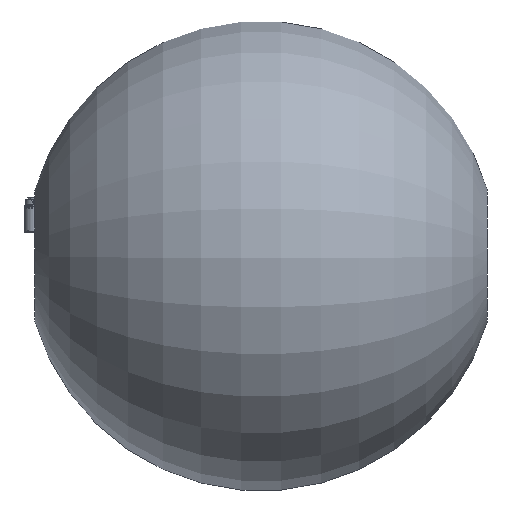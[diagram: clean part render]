
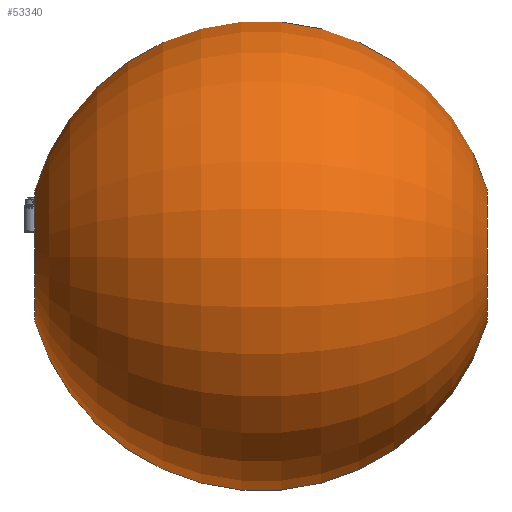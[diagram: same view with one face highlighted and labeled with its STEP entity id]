
A CAD part, left-side view. The second image highlights one B-rep face of the part: STEP entity #53340.
In plain terms, the highlighted toroidal (fillet/blend) face has major radius 1.75 mm and minor radius 1076 mm.
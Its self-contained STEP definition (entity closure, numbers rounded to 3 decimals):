
#2937 = DIRECTION ( 'NONE',  ( 0.087, 0., 0.996 ) ) ;
#3253 = CIRCLE ( 'NONE', #39454, 1076. ) ;
#5809 = DIRECTION ( 'NONE',  ( 0., 1., 0. ) ) ;
#8391 = ORIENTED_EDGE ( 'NONE', *, *, #17971, .F. ) ;
#10292 = VERTEX_POINT ( 'NONE', #73838 ) ;
#11040 = TOROIDAL_SURFACE ( 'NONE', #69168, 1.75, 1076. ) ;
#11145 = ORIENTED_EDGE ( 'NONE', *, *, #22257, .T. ) ;
#17239 = AXIS2_PLACEMENT_3D ( 'NONE', #84838, #5809, #52350 ) ;
#17971 = EDGE_CURVE ( 'NONE', #43916, #10292, #42668, .T. ) ;
#22257 = EDGE_CURVE ( 'NONE', #26969, #30683, #52752, .T. ) ;
#23640 = DIRECTION ( 'NONE',  ( 0., 0., 1. ) ) ;
#24982 = CARTESIAN_POINT ( 'NONE',  ( -26.234, -855.282, -299.855 ) ) ;
#26969 = VERTEX_POINT ( 'NONE', #24982 ) ;
#30683 = VERTEX_POINT ( 'NONE', #38639 ) ;
#35049 = DIRECTION ( 'NONE',  ( 0., 1., 0. ) ) ;
#35230 = DIRECTION ( 'NONE',  ( -0.996, 0., -0.087 ) ) ;
#35511 = CARTESIAN_POINT ( 'NONE',  ( 0.153, 178.268, -1.744 ) ) ;
#36061 = DIRECTION ( 'NONE',  ( -0.996, 0., 0.087 ) ) ;
#38184 = EDGE_CURVE ( 'NONE', #43916, #26969, #3253, .T. ) ;
#38639 = CARTESIAN_POINT ( 'NONE',  ( 26.234, -855.282, -299.855 ) ) ;
#38833 = AXIS2_PLACEMENT_3D ( 'NONE', #35511, #35230, #48654 ) ;
#39454 = AXIS2_PLACEMENT_3D ( 'NONE', #50361, #36061, #2937 ) ;
#42668 = CIRCLE ( 'NONE', #17239, 301. ) ;
#43709 = DIRECTION ( 'NONE',  ( 0., 1., 0. ) ) ;
#43916 = VERTEX_POINT ( 'NONE', #64114 ) ;
#48654 = DIRECTION ( 'NONE',  ( -0.087, 0., 0.996 ) ) ;
#50361 = CARTESIAN_POINT ( 'NONE',  ( -0.153, 178.268, -1.744 ) ) ;
#52350 = DIRECTION ( 'NONE',  ( 0., 0., 1. ) ) ;
#52752 = CIRCLE ( 'NONE', #71968, 301. ) ;
#53340 = ADVANCED_FACE ( 'NONE', ( #64246 ), #11040, .T. ) ;
#55666 = EDGE_LOOP ( 'NONE', ( #11145, #56938, #8391, #81717 ) ) ;
#56938 = ORIENTED_EDGE ( 'NONE', *, *, #66866, .F. ) ;
#63623 = CARTESIAN_POINT ( 'NONE',  ( 0., 178.268, 0. ) ) ;
#64114 = CARTESIAN_POINT ( 'NONE',  ( -26.234, 1211.818, -299.855 ) ) ;
#64246 = FACE_OUTER_BOUND ( 'NONE', #55666, .T. ) ;
#66866 = EDGE_CURVE ( 'NONE', #10292, #30683, #68110, .T. ) ;
#68110 = CIRCLE ( 'NONE', #38833, 1076. ) ;
#69168 = AXIS2_PLACEMENT_3D ( 'NONE', #63623, #43709, #23640 ) ;
#69237 = CARTESIAN_POINT ( 'NONE',  ( 0., -855.282, 0. ) ) ;
#71968 = AXIS2_PLACEMENT_3D ( 'NONE', #69237, #35049, #81801 ) ;
#73838 = CARTESIAN_POINT ( 'NONE',  ( 26.234, 1211.818, -299.855 ) ) ;
#81717 = ORIENTED_EDGE ( 'NONE', *, *, #38184, .T. ) ;
#81801 = DIRECTION ( 'NONE',  ( 0., 0., 1. ) ) ;
#84838 = CARTESIAN_POINT ( 'NONE',  ( 0., 1211.818, 0. ) ) ;
